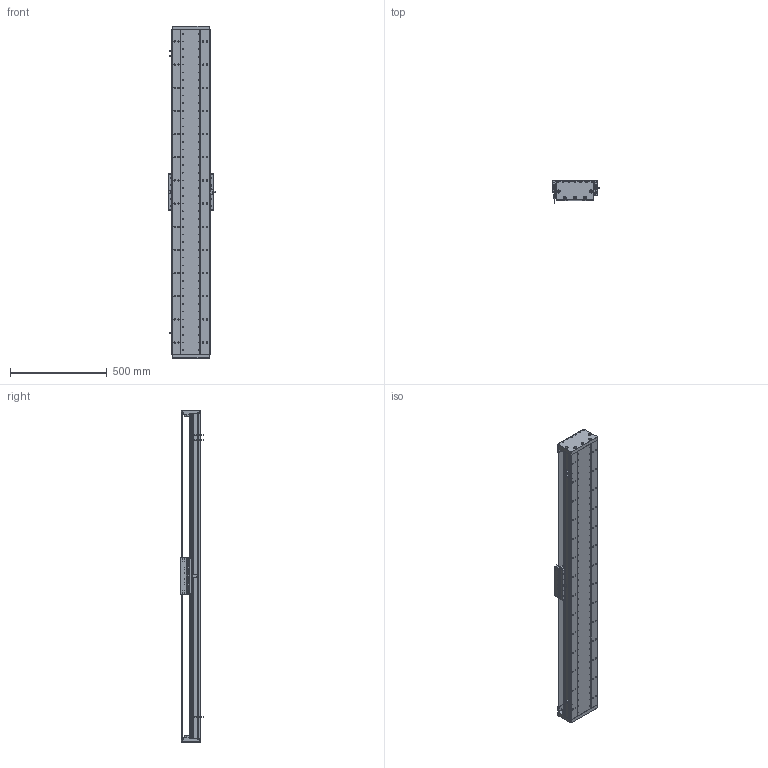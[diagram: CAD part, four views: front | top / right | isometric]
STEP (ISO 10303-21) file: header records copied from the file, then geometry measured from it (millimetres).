
FILE_DESCRIPTION (( 'STEP AP203' ), '1' );
FILE_NAME ('DA-C195-C2-T1440-C010-0.2 眻盄萇儂.STEP', '2025-08-15T01:06:25', ( '' ), ( '' ), 'SwSTEP 2.0', 'SolidWorks 2019', '' );
FILE_SCHEMA (( 'CONFIG_CONTROL_DESIGN' ));
Length unit declared in the file: millimetre
Products named in the file (15): LMT黍杅芛; MS200 棠掑喜S315-T1740; DA-C195-GD-DB-H-00 傷啣; DA95-HXJ-00 遣喳砎蝶; DA165-GYP-00 光电感应片(默认); IU-CU195-L 菁釱絳寢; DA195詩湍裔啣; CU195-C2賑輸-俋楷; DA-C195-C2-T1440-C010-0.2 眻盄萇儂; DA195詩湍嶺輸; IU-CU195-L-00 菁釱(L1680); DA195詩湍菜輸; 葩璃 DA95-GT-T-00; DA195詩湍郪璃; PM-T45ㄗ侂狟ㄘ
Assembly tree (29 placements, depth 3):
  DA-C195-C2-T1440-C010-0.2 眻盄萇儂
    DA195詩湍郪璃
      DA195詩湍菜輸  x2
      DA195詩湍裔啣
      DA195詩湍嶺輸  x2
      DA95-HXJ-00 遣喳砎蝶  x8
      DA-C195-GD-DB-H-00 傷啣  x2
    IU-CU195-L 菁釱絳寢
      IU-CU195-L-00 菁釱(L1680)
      葩璃 DA95-GT-T-00  x4
    LMT黍杅芛
    MS200 棠掑喜S315-T1740
    PM-T45ㄗ侂狟ㄘ  x3
    DA165-GYP-00 光电感应片(默认)
    CU195-C2賑輸-俋楷
Bounding box: 248 x 115.45 x 1720 mm (x, y, z)
Volume: 10521006.7 mm3; surface area: 3051925.7 mm2
Topology: 66 solids, 130 shells, 4002 faces, 10771 edges, 6727 vertices
Faces by surface type: cylinder 1999, plane 1385, cone 530, torus 52, sphere 36
Entity records: 120477 total; most frequent: CARTESIAN_POINT 30146, DIRECTION 18472, ORIENTED_EDGE 18426, EDGE_CURVE 9213, AXIS2_PLACEMENT_3D 6921, VERTEX_POINT 5929, VECTOR 4630, LINE 4630
